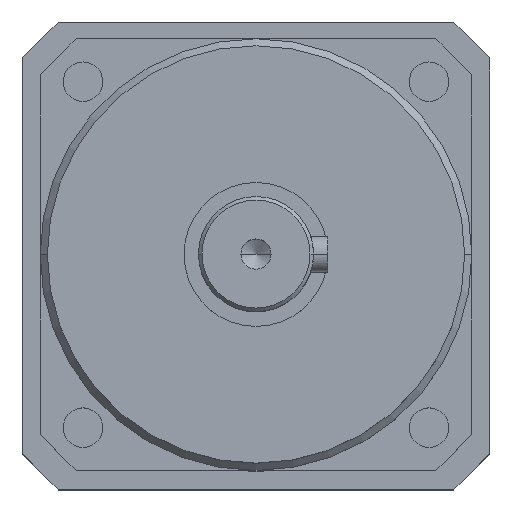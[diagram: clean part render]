
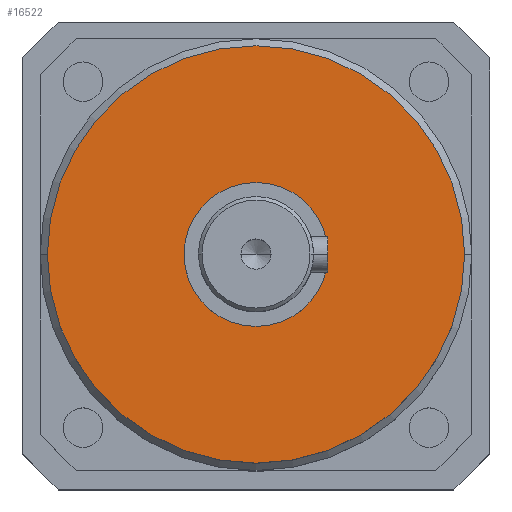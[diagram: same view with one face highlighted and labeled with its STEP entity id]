
A CAD part, top view. The second image highlights one B-rep face of the part: STEP entity #16522.
In plain terms, the highlighted planar face has unit normal (0, 0, 1).
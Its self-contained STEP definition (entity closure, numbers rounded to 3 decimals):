
#1572 = CARTESIAN_POINT ( 'NONE',  ( 0., 0., 5. ) ) ;
#1921 = DIRECTION ( 'NONE',  ( -1., 0., 0. ) ) ;
#2278 = AXIS2_PLACEMENT_3D ( 'NONE', #29732, #14853, #32263 ) ;
#3638 = AXIS2_PLACEMENT_3D ( 'NONE', #24810, #9857, #27281 ) ;
#3942 = CIRCLE ( 'NONE', #3638, 29. ) ;
#4075 = DIRECTION ( 'NONE',  ( -1., 0., 0. ) ) ;
#4654 = ORIENTED_EDGE ( 'NONE', *, *, #22774, .F. ) ;
#8455 = EDGE_LOOP ( 'NONE', ( #4654, #10845 ) ) ;
#9689 = DIRECTION ( 'NONE',  ( 0., 0., 1. ) ) ;
#9857 = DIRECTION ( 'NONE',  ( 0., 0., -1. ) ) ;
#10377 = AXIS2_PLACEMENT_3D ( 'NONE', #22205, #9689, #27106 ) ;
#10702 = CARTESIAN_POINT ( 'NONE',  ( -10., 0., 5. ) ) ;
#10845 = ORIENTED_EDGE ( 'NONE', *, *, #30918, .F. ) ;
#11127 = FACE_OUTER_BOUND ( 'NONE', #8455, .T. ) ;
#13293 = EDGE_LOOP ( 'NONE', ( #31230, #29867 ) ) ;
#14093 = EDGE_CURVE ( 'NONE', #15615, #31139, #25429, .T. ) ;
#14853 = DIRECTION ( 'NONE',  ( 0., 0., -1. ) ) ;
#15615 = VERTEX_POINT ( 'NONE', #20296 ) ;
#16522 = ADVANCED_FACE ( 'NONE', ( #31000, #11127 ), #29481, .T. ) ;
#16998 = DIRECTION ( 'NONE',  ( 0., 0., -1. ) ) ;
#18219 = CIRCLE ( 'NONE', #2278, 29. ) ;
#19178 = DIRECTION ( 'NONE',  ( 0., 0., -1. ) ) ;
#19200 = EDGE_CURVE ( 'NONE', #31139, #15615, #24770, .T. ) ;
#20296 = CARTESIAN_POINT ( 'NONE',  ( 10., 0., 5. ) ) ;
#22205 = CARTESIAN_POINT ( 'NONE',  ( 0., 0., 5. ) ) ;
#22712 = AXIS2_PLACEMENT_3D ( 'NONE', #31916, #16998, #1921 ) ;
#22774 = EDGE_CURVE ( 'NONE', #24033, #31140, #18219, .T. ) ;
#24033 = VERTEX_POINT ( 'NONE', #25525 ) ;
#24770 = CIRCLE ( 'NONE', #22712, 10. ) ;
#24810 = CARTESIAN_POINT ( 'NONE',  ( 0., 0., 5. ) ) ;
#25429 = CIRCLE ( 'NONE', #26355, 10. ) ;
#25525 = CARTESIAN_POINT ( 'NONE',  ( 29., 0., 5. ) ) ;
#26355 = AXIS2_PLACEMENT_3D ( 'NONE', #1572, #19178, #4075 ) ;
#27106 = DIRECTION ( 'NONE',  ( 1., 0., 0. ) ) ;
#27281 = DIRECTION ( 'NONE',  ( 1., 0., 0. ) ) ;
#28110 = CARTESIAN_POINT ( 'NONE',  ( -29., 0., 5. ) ) ;
#29481 = PLANE ( 'NONE',  #10377 ) ;
#29732 = CARTESIAN_POINT ( 'NONE',  ( 0., 0., 5. ) ) ;
#29867 = ORIENTED_EDGE ( 'NONE', *, *, #14093, .T. ) ;
#30918 = EDGE_CURVE ( 'NONE', #31140, #24033, #3942, .T. ) ;
#31000 = FACE_BOUND ( 'NONE', #13293, .T. ) ;
#31139 = VERTEX_POINT ( 'NONE', #10702 ) ;
#31140 = VERTEX_POINT ( 'NONE', #28110 ) ;
#31230 = ORIENTED_EDGE ( 'NONE', *, *, #19200, .T. ) ;
#31916 = CARTESIAN_POINT ( 'NONE',  ( 0., 0., 5. ) ) ;
#32263 = DIRECTION ( 'NONE',  ( 1., 0., 0. ) ) ;
